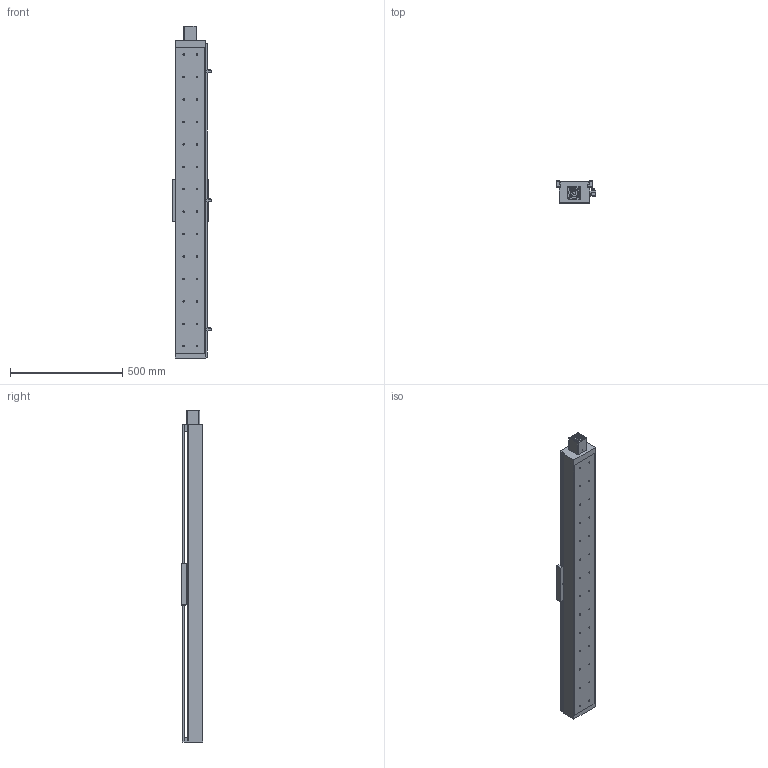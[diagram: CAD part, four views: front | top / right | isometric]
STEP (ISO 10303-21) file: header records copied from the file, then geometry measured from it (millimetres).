
FILE_DESCRIPTION((''),'2;1');
FILE_NAME('E:\libraries\UIA actuator library 2009\standard actuator\UIA136 ball screw 20\UIA136R15NDC stp file 27Apr16\UIA136R15NDC-1150-R20_ _-M60-P13-C10-S.stp','2016-04-27T15:38:10',('h029'),(''),'Autodesk Inventor 11','Autodesk Inventor 11','');
FILE_SCHEMA(('AUTOMOTIVE_DESIGN { 1 0 10303 214 1 1 1 1 }'));
Length unit declared in the file: millimetre
Products named in the file (10): UIA136R15NDC-1150; UIA136R15NDC-body; motor mount F60; SOH-32C; SOH-32C-3; SOH-32C-1; SOH-32C-2; Carriage; Sensor Switch; sensor rail
Assembly tree (9 placements, depth 3):
  UIA136R15NDC-1150
    UIA136R15NDC-body
    motor mount F60
    SOH-32C
      SOH-32C-3
      SOH-32C-1
      SOH-32C-2
    Carriage
    Sensor Switch
    sensor rail
Bounding box: 174.5 x 98 x 1480 mm (x, y, z)
Volume: 5376097.7 mm3; surface area: 1518693.6 mm2
Topology: 8 solids, 8 shells, 531 faces, 1377 edges, 905 vertices
Faces by surface type: plane 313, bspline 174, cylinder 40, cone 4
Full cylindrical faces by diameter (mm): 2.459 x2, 3.242 x2, 4.5 x2, 5.5 x3, 7.5 x2, 10 x2, 12 x1, 14 x1, 32 x3, 37 x1, 41.9 x1, 42.1 x1, 43.5 x1
Entity records: 17451 total; most frequent: CARTESIAN_POINT 5354, ORIENTED_EDGE 2314, DIRECTION 2250, EDGE_CURVE 1157, VERTEX_POINT 840, EDGE_LOOP 837, VECTOR 798, LINE 798
